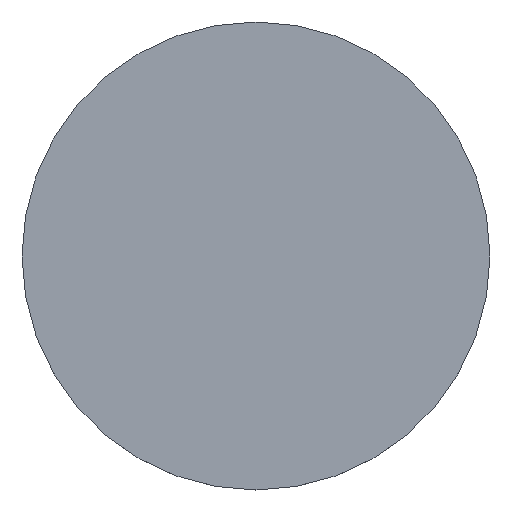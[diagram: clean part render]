
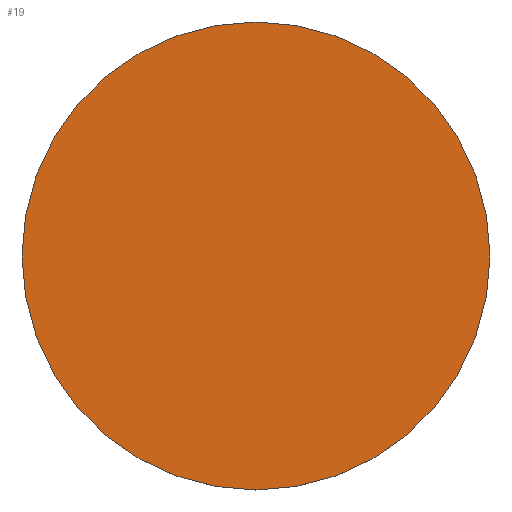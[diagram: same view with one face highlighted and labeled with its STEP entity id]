
A CAD part, top view. The second image highlights one B-rep face of the part: STEP entity #19.
In plain terms, the highlighted planar face has unit normal (0, 0, 1).
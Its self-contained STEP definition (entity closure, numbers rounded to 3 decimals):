
#19=ADVANCED_FACE('',(#117),#1815,.T.);
#117=FACE_OUTER_BOUND('',#215,.T.);
#215=EDGE_LOOP('',(#320,#321));
#320=ORIENTED_EDGE('',*,*,#878,.F.);
#321=ORIENTED_EDGE('',*,*,#874,.F.);
#874=EDGE_CURVE('',#1626,#1627,#1250,.T.);
#878=EDGE_CURVE('',#1627,#1626,#1252,.T.);
#1250=TRIMMED_CURVE($,#1438,(#2775),(#2776),.T.,.CARTESIAN.);
#1252=TRIMMED_CURVE($,#1440,(#2785),(#2786),.T.,.CARTESIAN.);
#1438=CIRCLE('',#2004,400.);
#1440=CIRCLE('',#2006,400.);
#1626=VERTEX_POINT('',#2770);
#1627=VERTEX_POINT('',#2771);
#1815=PLANE('',#2003);
#2003=AXIS2_PLACEMENT_3D('',#2769,#2292,$);
#2004=AXIS2_PLACEMENT_3D($,#2774,#2293,#2294);
#2006=AXIS2_PLACEMENT_3D($,#2784,#2297,#2298);
#2292=DIRECTION('',(0.,0.,1.));
#2293=DIRECTION('',(0.,0.,-1.));
#2294=DIRECTION('',(-1.,0.,0.));
#2297=DIRECTION('',(0.,0.,-1.));
#2298=DIRECTION('',(1.,0.,0.));
#2769=CARTESIAN_POINT('',(400.01,-400.01,739.996));
#2770=CARTESIAN_POINT('',(-400.,0.,739.996));
#2771=CARTESIAN_POINT('',(400.,0.,739.996));
#2774=CARTESIAN_POINT('',(0.,0.,739.996));
#2775=CARTESIAN_POINT('',(-400.,0.,739.996));
#2776=CARTESIAN_POINT('',(400.,0.,739.996));
#2784=CARTESIAN_POINT('',(0.,0.,739.996));
#2785=CARTESIAN_POINT('',(400.,0.,739.996));
#2786=CARTESIAN_POINT('',(-400.,0.,739.996));
